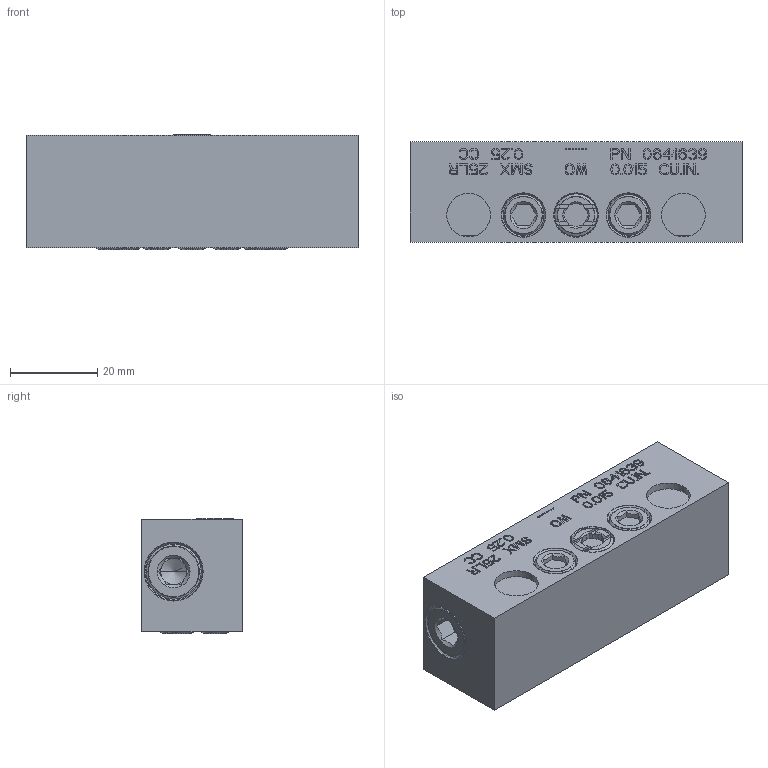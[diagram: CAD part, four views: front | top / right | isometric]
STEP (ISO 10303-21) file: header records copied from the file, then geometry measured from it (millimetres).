
FILE_DESCRIPTION((''),'2;1');
FILE_NAME('0641639_SMX_25LR','2023-07-21T12:00:00',('pietro.masciave'),(''),'CREO PARAMETRIC BY PTC INC, 2022281','CREO PARAMETRIC BY PTC INC, 2022281','');
FILE_SCHEMA(('CONFIG_CONTROL_DESIGN'));
Length unit declared in the file: millimetre
Products named in the file (1): 0641639_SMX_25LR
Bounding box: 76 x 23 x 26.33 mm (x, y, z)
Volume: 44005.8 mm3; surface area: 12663.8 mm2
Topology: 1 solids, 14 shells, 1369 faces, 3794 edges, 2521 vertices
Faces by surface type: plane 1193, cylinder 110, cone 44, torus 22
Entity records: 44280 total; most frequent: CARTESIAN_POINT 9010, ORIENTED_EDGE 7540, DIRECTION 6811, EDGE_CURVE 3790, VECTOR 3355, LINE 3355, VERTEX_POINT 2521, AXIS2_PLACEMENT_3D 1728
